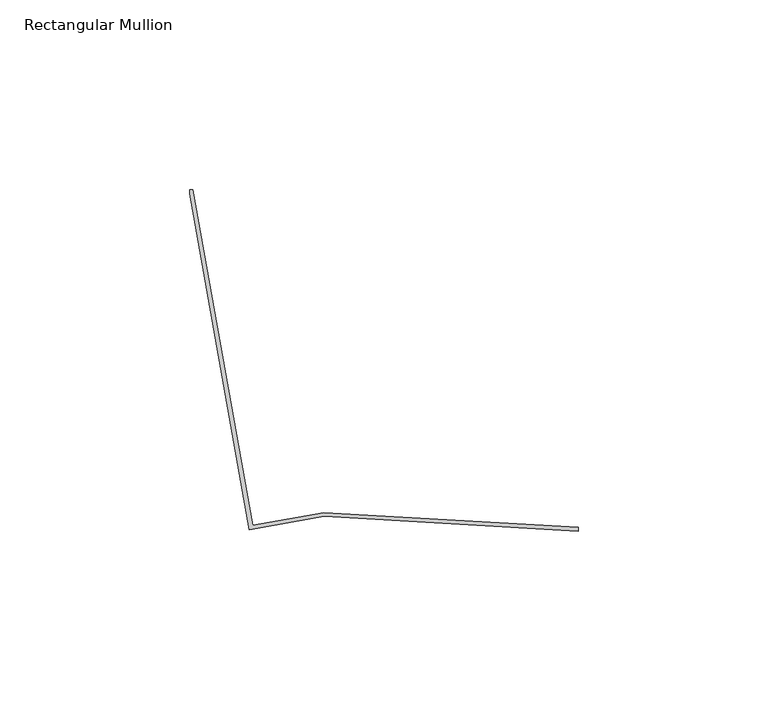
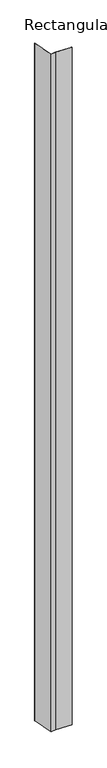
"""IFC4 building model written with IfcOpenShell, lengths in millimetres: member geometry, Rectangular Mullion : CD_NINELINE_Box Start."""

import ifcopenshell
import ifcopenshell.guid

model = None  # the IFC model being written
_history = None  # IfcOwnerHistory: only IFC2X3 demands one
_inside = {}  # id of a spatial element -> (the spatial element, [elements in it])
_under = {}  # id of a project, library or spatial element -> (it, [spatial elements below it])
_declared = {}  # id of a project -> (the project, [libraries it declares])
_typed = {}  # id of a type object -> (the type object, [elements of that type])
_made_of = {}  # id of a material, layer set ... -> (it, [elements and type objects made of it])


def new_model(schema):
    """Start an empty IFC model of exactly this schema.

    Asked for "IFC4X3", IfcOpenShell would pick the latest addendum, in which some entities
    have other attributes; the version numbers below select the first issue.
    IFC2X3 requires an IfcOwnerHistory on every rooted entity: one is made here for all.
    """
    global model, _history
    if schema == "IFC4X3":
        model = ifcopenshell.file(schema_version=(4, 3, 0, 0))
    else:
        model = ifcopenshell.file(schema=schema)
    _inside.clear()
    _under.clear()
    _declared.clear()
    _typed.clear()
    _made_of.clear()
    _history = None
    if model.schema == "IFC2X3":
        org = make("IfcOrganization", Name="unknown")
        user = make(
            "IfcPersonAndOrganization",
            ThePerson=make("IfcPerson", FamilyName="unknown"),
            TheOrganization=org,
        )
        app = make(
            "IfcApplication",
            ApplicationDeveloper=org,
            Version="unknown",
            ApplicationFullName="unknown",
            ApplicationIdentifier="unknown",
        )
        _history = make(
            "IfcOwnerHistory",
            OwningUser=user,
            OwningApplication=app,
            ChangeAction="ADDED",
            CreationDate=0,
        )
    return model


def make(cls, **values):
    """One entity of the class cls with the attributes given. An attribute that is None is left unset."""
    return model.create_entity(
        cls, **{name: value for name, value in values.items() if value is not None}
    )


def rooted(cls, **values):
    """An entity with a GlobalId (a new one), such as an element, a storey or a relation."""
    return make(cls, GlobalId=ifcopenshell.guid.new(), OwnerHistory=_history, **values)


def si_unit(unit_type, name, prefix=None):
    """IfcSIUnit, for example si_unit("LENGTHUNIT", "METRE", prefix="MILLI")."""
    return make("IfcSIUnit", UnitType=unit_type, Prefix=prefix, Name=name)


def assignment(units):
    """IfcUnitAssignment: the units of a project."""
    return None if units is None else make("IfcUnitAssignment", Units=units)


def point(xyz):
    """IfcCartesianPoint."""
    return None if xyz is None else make("IfcCartesianPoint", Coordinates=xyz)


def direction(xyz):
    """IfcDirection."""
    return None if xyz is None else make("IfcDirection", DirectionRatios=xyz)


def frame(location, z_axis=None, x_axis=None):
    """IfcAxis2Placement3D, a coordinate frame: its origin and axes. An axis left out is left unset."""
    return make(
        "IfcAxis2Placement3D",
        Location=point(location),
        Axis=direction(z_axis),
        RefDirection=direction(x_axis),
    )


def origin():
    """The frame at (0, 0, 0) with its axes left unset."""
    return frame((0.0, 0.0, 0.0))


def place(relative_to, where):
    """IfcLocalPlacement: puts the frame where relative to a parent placement (None: the world)."""
    return make(
        "IfcLocalPlacement", PlacementRelTo=relative_to, RelativePlacement=where
    )


def context(
    kind, dimensions, precision=None, world=None, true_north=None, identifier=None
):
    """IfcGeometricRepresentationContext, for example the 3D "Model" context."""
    return make(
        "IfcGeometricRepresentationContext",
        ContextIdentifier=identifier,
        ContextType=kind,
        CoordinateSpaceDimension=dimensions,
        Precision=precision,
        WorldCoordinateSystem=world,
        TrueNorth=true_north,
    )


def project(units=None, contexts=None):
    """IfcProject with its units and contexts."""
    return rooted(
        "IfcProject",
        Name="project",
        RepresentationContexts=contexts,
        UnitsInContext=assignment(units),
    )


def spatial(cls, under=None, at=None, **own):
    """A site, building, storey or space (cls), placed at a placement, below another one or the project."""
    s = rooted(cls, ObjectPlacement=at, **own)
    if under is not None:
        _under.setdefault(under.id(), (under, []))[1].append(s)
    return s


def polyline(points):
    """IfcPolyline through the points."""
    return make("IfcPolyline", Points=[point(p) for p in points])


def outline(outer, holes=None, kind="AREA"):
    """IfcArbitraryClosedProfileDef: a profile drawn as a closed curve; with holes, ...WithVoids."""
    if holes is None:
        return make("IfcArbitraryClosedProfileDef", ProfileType=kind, OuterCurve=outer)
    return make(
        "IfcArbitraryProfileDefWithVoids",
        ProfileType=kind,
        OuterCurve=outer,
        InnerCurves=holes,
    )


def extrude(swept, where, along, depth):
    """IfcExtrudedAreaSolid: the profile swept, set in the frame where, extruded along a direction by depth."""
    return make(
        "IfcExtrudedAreaSolid",
        SweptArea=swept,
        Position=where,
        ExtrudedDirection=direction(along),
        Depth=depth,
    )


def shape(context_of_items, identifier, shape_type, items):
    """IfcShapeRepresentation: the items that make up one representation, for example the "Body"."""
    return make(
        "IfcShapeRepresentation",
        ContextOfItems=context_of_items,
        RepresentationIdentifier=identifier,
        RepresentationType=shape_type,
        Items=items,
    )


def source(mapping_origin, context_of_items, identifier, shape_type, items):
    """IfcRepresentationMap: a shape defined once, which mapped items show again and again."""
    return make(
        "IfcRepresentationMap",
        MappingOrigin=mapping_origin,
        MappedRepresentation=shape(context_of_items, identifier, shape_type, items),
    )


def transform(
    local_origin,
    x_axis=None,
    y_axis=None,
    z_axis=None,
    scale=None,
    scale2=None,
    scale3=None,
    uniform=True,
):
    """IfcCartesianTransformationOperator3D, or its non-uniform kind. x_axis, y_axis, z_axis: its Axis1, 2, 3."""
    if uniform:
        return make(
            "IfcCartesianTransformationOperator3D",
            Axis1=direction(x_axis),
            Axis2=direction(y_axis),
            LocalOrigin=point(local_origin),
            Scale=scale,
            Axis3=direction(z_axis),
        )
    return make(
        "IfcCartesianTransformationOperator3DnonUniform",
        Axis1=direction(x_axis),
        Axis2=direction(y_axis),
        LocalOrigin=point(local_origin),
        Scale=scale,
        Axis3=direction(z_axis),
        Scale2=scale2,
        Scale3=scale3,
    )


def mapped(mapping_source, mapping_target):
    """IfcMappedItem: shows the shape of a source again, moved by a transform."""
    return make(
        "IfcMappedItem", MappingSource=mapping_source, MappingTarget=mapping_target
    )


def made_of(thing, what):
    """Note that an element or type object is made of a material, layer set ...; save() writes the relation."""
    if what is not None:
        _made_of.setdefault(what.id(), (what, []))[1].append(thing)
    return thing


def element(
    cls,
    number,
    at=None,
    inside=None,
    cuts=None,
    type_object=None,
    material=None,
    context=None,
    identifier="Body",
    shape_type=None,
    held_by="IfcProductDefinitionShape",
    body=None,
    shapes=None,
    **own,
):
    """One element of the class cls, such as IfcWall. Its Tag is "e" and its number.

    at: its placement. inside: the storey or other place that contains it. cuts: it is an
    opening in that element (IfcRelVoidsElement). A single representation is given by context,
    identifier, shape_type and body (its items); several are given by shapes. held_by: the class
    of the entity that holds the representations. save() writes the other relations.
    """
    e = rooted(cls, Tag="e%d" % number, ObjectPlacement=at, **own)
    if body is not None:
        shapes = [shape(context, identifier, shape_type, body)]
    if shapes is not None:
        e.Representation = make(held_by, Representations=shapes)
    if inside is not None:
        _inside.setdefault(inside.id(), (inside, []))[1].append(e)
    if cuts is not None:
        rooted(
            "IfcRelVoidsElement", RelatingBuildingElement=cuts, RelatedOpeningElement=e
        )
    if type_object is not None:
        _typed.setdefault(type_object.id(), (type_object, []))[1].append(e)
    return made_of(e, material)


def aggregate(whole, parts):
    """IfcRelAggregates: a whole, such as a stair, and the parts it consists of."""
    return rooted("IfcRelAggregates", RelatingObject=whole, RelatedObjects=parts)


def save(model, path):
    """Write the relations noted so far, then the file.

    IfcRelAggregates (storeys below a building ...), IfcRelContainedInSpatialStructure (elements
    in a storey), IfcRelDefinesByType, IfcRelAssociatesMaterial and IfcRelDeclares: one each for
    every whole, place, type object, material and project.
    """
    for whole, parts in _under.values():
        aggregate(whole, parts)
    for where, things in _inside.values():
        rooted(
            "IfcRelContainedInSpatialStructure",
            RelatedElements=things,
            RelatingStructure=where,
        )
    for kind, things in _typed.values():
        rooted("IfcRelDefinesByType", RelatedObjects=things, RelatingType=kind)
    for what, things in _made_of.values():
        rooted("IfcRelAssociatesMaterial", RelatedObjects=things, RelatingMaterial=what)
    for by, libraries in _declared.values():
        rooted("IfcRelDeclares", RelatingContext=by, RelatedDefinitions=libraries)
    model.write(path)


def rectangular_mullion_71329b21(model_context):
    return source(origin(), model_context, "Body", "SweptSolid", [
        extrude(outline(polyline([(-102.3753074, -0.9999629), (-102.3753074, 3.78e-05), (-101.5373726, 3.78e-05), (-85.8253425, -88.4000947), (-67.0220447, -85.0580411), (0.0, -88.9992721), (-0.0587036, -89.9975475), (-66.9630913, -86.0632353), (-86.6349168, -89.559659), (-102.3753074, -0.9999629)])), frame((0.0, 0.0, -2942.0), z_axis=(0.0, 0.0, 1.0), x_axis=(1.0, 0.0, 0.0)), (0.0, 0.0, 1.0), 2942.0),
    ])


if __name__ == "__main__":
    model = new_model("IFC4")
    model_context = context("Model", 3, world=origin())
    ifc_project = project(units=[si_unit("LENGTHUNIT", "METRE", prefix="MILLI")], contexts=[model_context])
    site = spatial("IfcSite", under=ifc_project)
    building = spatial("IfcBuilding", under=site)
    placement = place(None, origin())
    rectangular_mullion_shape = rectangular_mullion_71329b21(model_context)
    element("IfcMember", 1, ObjectType="Rectangular Mullion : CD_NINELINE_Box Start", at=placement, inside=building, context=model_context, shape_type="MappedRepresentation", body=[
        mapped(rectangular_mullion_shape, transform((0.0, 0.0, 0.0), x_axis=(1.0, 0.0, 0.0), y_axis=(0.0, 1.0, 0.0), z_axis=(0.0, 0.0, 1.0))),
    ])
    save(model, "model.ifc")
